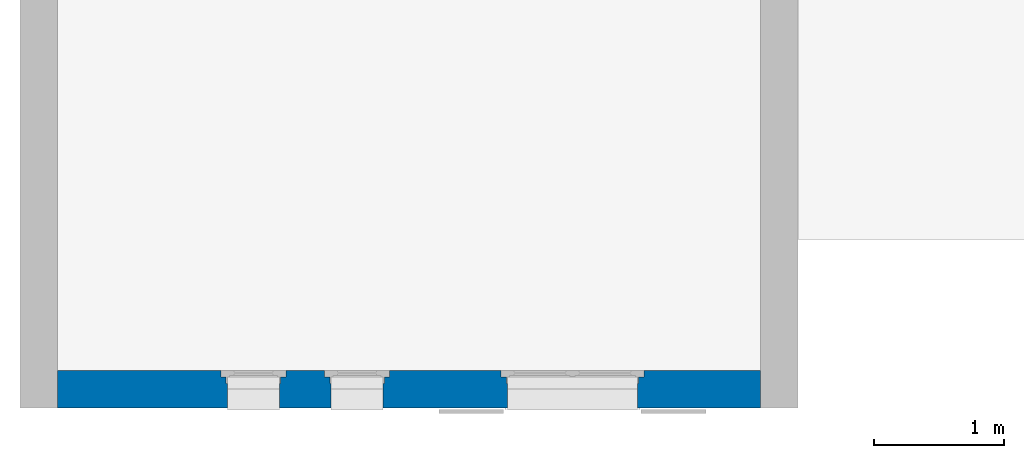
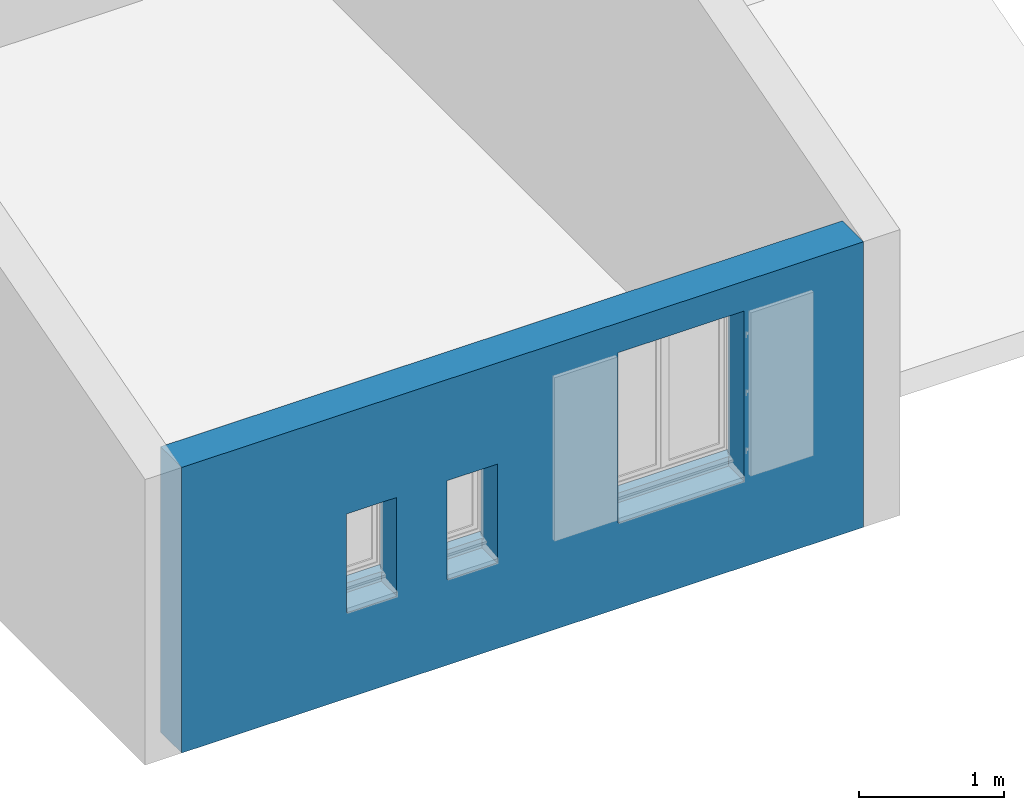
# One storey, part 2 of 6: 1 wall, 3 openings.
"""IFC2X3 building model written with IfcOpenShell, lengths in metres."""

from ifc_helpers import new_model, entity, si_unit, converted_unit, derived_unit, direction, frame, frame_2d, origin, place, context, subcontext, project, spatial, rectangle, extrude, faceted_brep, material, layer, layer_set, layer_usage, type_object, element, save


model = new_model("IFC2X3")

# Units and contexts
model_context = context("Model", 3, precision=1e-05, world=origin(), true_north=direction((6.12303176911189e-17, 1.0)))
context_of_model = context(None, 3, precision=1e-05, world=origin(), true_north=direction((6.12303176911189e-17, 1.0)))
body_context = subcontext(model_context, "Body", "Model", "MODEL_VIEW")
ifc_project = project(units=[si_unit("LENGTHUNIT", "METRE"), si_unit("AREAUNIT", "SQUARE_METRE"), si_unit("VOLUMEUNIT", "CUBIC_METRE"), converted_unit("PLANEANGLEUNIT", "DEGREE", entity("IfcRatioMeasure", 0.0174532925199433), si_unit("PLANEANGLEUNIT", "RADIAN"), dimensions=[0, 0, 0, 0, 0, 0, 0]), si_unit("MASSUNIT", "GRAM", prefix="KILO"), si_unit("TIMEUNIT", "SECOND"), si_unit("FREQUENCYUNIT", "HERTZ"), si_unit("THERMODYNAMICTEMPERATUREUNIT", "DEGREE_CELSIUS"), derived_unit("THERMALTRANSMITTANCEUNIT", [(si_unit("MASSUNIT", "GRAM", prefix="KILO"), 1), (si_unit("THERMODYNAMICTEMPERATUREUNIT", "KELVIN"), -1), (si_unit("TIMEUNIT", "SECOND"), -3)]), derived_unit("VOLUMETRICFLOWRATEUNIT", [(si_unit("LENGTHUNIT", "METRE"), 3), (si_unit("TIMEUNIT", "SECOND"), -1)]), si_unit("ELECTRICCURRENTUNIT", "AMPERE"), si_unit("ELECTRICVOLTAGEUNIT", "VOLT"), si_unit("POWERUNIT", "WATT"), si_unit("FORCEUNIT", "NEWTON", prefix="KILO"), si_unit("ILLUMINANCEUNIT", "LUX"), si_unit("LUMINOUSFLUXUNIT", "LUMEN"), si_unit("LUMINOUSINTENSITYUNIT", "CANDELA"), si_unit("PRESSUREUNIT", "PASCAL")], contexts=[model_context, context_of_model])

# Site, building, storey
site_placement = place(None, origin())
site = spatial("IfcSite", under=ifc_project, at=site_placement, Name="Surface", CompositionType="ELEMENT")
building_placement = place(site_placement, origin())
building = spatial("IfcBuilding", under=site, at=building_placement, CompositionType="ELEMENT")
storey_placement = place(building_placement, frame((0.0, 0.0, 2.64)))
storey = spatial("IfcBuildingStorey", under=building, at=storey_placement, Name="Niveau 1", CompositionType="ELEMENT", Elevation=2.64)

# Wall, openings
ifc_material_1 = material(Name="Maçonnerie - Enduit")
ifc_layer_1 = layer(ifc_material_1, 0.01)
ifc_material_2 = material(Name="Eléments de maçonnerie en béton")
ifc_layer_2 = layer(ifc_material_2, 0.2)
ifc_material_3 = material(Name="Maçonnerie - Isolant")
ifc_layer_3 = layer(ifc_material_3, 0.08)
ifc_layer_set = layer_set([ifc_layer_1, ifc_layer_2, ifc_layer_3], Name="Mur de base:Ext. Parpaing 20 + Isolant 8")
ifc_layer_usage = layer_usage(ifc_layer_set, "AXIS2", "NEGATIVE", 0.145)
wall_type = type_object("IfcWallType", Name="Mur de base:Ext. Parpaing 20 + Isolant 8", PredefinedType="STANDARD", material=ifc_layer_set)
wall_placement = place(storey_placement, frame((-3.08909160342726, -7.21358265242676, 0.0), z_axis=(0.0, 0.0, 1.0), x_axis=(-1.0, 0.0, 0.0)))
wall = element("IfcWallStandardCase", 1, at=wall_placement, inside=storey, type_object=wall_type, material=ifc_layer_usage, Name="Mur de base:Ext. Parpaing 20 + Isolant 8", ObjectType="Mur de base:Ext. Parpaing 20 + Isolant 8", context=body_context, shape_type="SweptSolid", body=[
    extrude(rectangle(XDim=5.42, YDim=0.289999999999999, at=frame_2d((2.71, 0.0), x_axis=(-1.0, 0.0))), origin(), (0.0, 0.0, 1.0), 2.4),
])
opening_1_placement = place(wall_placement, frame((2.0, 0.500000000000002, 0.72), z_axis=(0.0, 0.0, 1.0), x_axis=(-1.0, 0.0, 0.0)))
element("IfcOpeningElement", 2, at=opening_1_placement, cuts=wall, Name="Mur de base:Ext. Parpaing 20 + Isolant 8", ObjectType="Opening", context=body_context, shape_type="Brep", body=[
    faceted_brep([(1.05, 0.565000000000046, 0.0800000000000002), (1.05, 0.544999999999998, 0.0800000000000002), (1.05, 0.544999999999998, 1.43), (1.05, 0.0, 1.43), (1.05, 0.0, 0.0), (1.05, 0.565000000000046, 0.0), (0.0500000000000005, 1.0, 0.0800000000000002), (0.0499999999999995, 0.645000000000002, 0.0800000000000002), (0.0499999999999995, 0.645000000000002, 1.43), (0.0500000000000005, 1.0, 1.43), (1.05, 1.0, 0.0800000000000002), (1.05, 0.645000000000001, 0.0800000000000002), (1.1, 0.645000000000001, 0.0800000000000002), (1.1, 0.595000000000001, 0.0800000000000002), (1.06, 0.595000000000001, 0.0800000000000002), (1.06, 0.544999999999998, 0.0800000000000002), (0.0499999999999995, 0.565000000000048, 0.0800000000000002), (0.0499999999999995, 0.544999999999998, 0.0800000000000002), (0.0399999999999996, 0.544999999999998, 0.0800000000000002), (0.0399999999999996, 0.595000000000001, 0.0800000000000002), (0.0, 0.595000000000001, 0.0800000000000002), (0.0, 0.645000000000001, 0.0800000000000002), (1.05, 1.0, 1.43), (0.0499999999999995, 0.544999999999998, 1.43), (0.0499999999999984, 0.0, 1.43), (0.0499999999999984, 0.0, 0.0), (0.0499999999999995, 0.565000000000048, 0.0), (1.1, 0.645000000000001, 1.48), (1.1, 0.595000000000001, 1.48), (0.0, 0.595000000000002, 1.48), (0.0399999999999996, 0.595000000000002, 1.44), (1.06, 0.595000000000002, 1.44), (1.06, 0.545, 1.44), (0.0399999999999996, 0.544999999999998, 1.44), (1.05, 0.645000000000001, 1.43), (0.0, 0.645000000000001, 1.48)], [[[0, 1, 2, 3, 4, 5]], [[6, 7, 8, 9]], [[10, 11, 12, 13, 14, 15, 1, 0, 16, 17, 18, 19, 20, 21, 7, 6]], [[10, 6, 9, 22]], [[3, 2, 23, 24]], [[3, 24, 25, 4]], [[4, 25, 26, 5]], [[5, 26, 16, 0]], [[12, 27, 28, 13]], [[13, 28, 29, 20, 19, 30, 31, 14]], [[14, 31, 32, 15]], [[15, 32, 33, 18, 17, 23, 2, 1]], [[11, 34, 8, 7, 21, 35, 27, 12]], [[27, 35, 29, 28]], [[30, 33, 32, 31]], [[29, 35, 21, 20]], [[19, 18, 33, 30]], [[9, 8, 34, 22]], [[24, 23, 17, 16, 26, 25]], [[22, 34, 11, 10]]]),
])
opening_2_placement = place(wall_placement, frame((3.36, 0.500000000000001, 0.72), z_axis=(0.0, 0.0, 1.0), x_axis=(-1.0, 0.0, 0.0)))
element("IfcOpeningElement", 3, at=opening_2_placement, cuts=wall, Name="Mur de base:Ext. Parpaing 20 + Isolant 8", ObjectType="Opening", context=body_context, shape_type="Brep", body=[
    faceted_brep([(0.45, 0.565000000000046, 0.0800000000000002), (0.45, 0.544999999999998, 0.0800000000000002), (0.45, 0.544999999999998, 0.83), (0.449999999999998, 0.0, 0.83), (0.449999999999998, 0.0, 0.0), (0.45, 0.565000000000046, 0.0), (0.0500000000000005, 1.0, 0.0800000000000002), (0.0499999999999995, 0.645, 0.0800000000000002), (0.0499999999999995, 0.645, 0.83), (0.0500000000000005, 1.0, 0.83), (0.450000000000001, 1.0, 0.0800000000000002), (0.45, 0.645000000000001, 0.0800000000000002), (0.5, 0.645000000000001, 0.0800000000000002), (0.5, 0.595000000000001, 0.0800000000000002), (0.46, 0.595000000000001, 0.0800000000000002), (0.46, 0.544999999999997, 0.0800000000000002), (0.0500000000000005, 0.565000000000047, 0.0800000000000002), (0.0499999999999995, 0.544999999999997, 0.0799999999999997), (0.0400000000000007, 0.544999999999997, 0.0800000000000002), (0.0400000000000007, 0.595000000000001, 0.0800000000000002), (0.0, 0.595000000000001, 0.0800000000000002), (0.0, 0.645000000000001, 0.0800000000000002), (0.450000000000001, 1.0, 0.83), (0.0499999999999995, 0.544999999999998, 0.83), (0.0499999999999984, 0.0, 0.83), (0.0499999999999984, 0.0, 0.0), (0.0499999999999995, 0.565000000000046, 0.0), (0.499999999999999, 0.645, 0.879999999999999), (0.499999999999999, 0.595, 0.88), (0.0, 0.595000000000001, 0.88), (0.0399999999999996, 0.595000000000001, 0.840000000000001), (0.46, 0.595000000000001, 0.840000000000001), (0.459999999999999, 0.544999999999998, 0.84), (0.0399999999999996, 0.544999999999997, 0.84), (0.45, 0.645000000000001, 0.83), (0.0, 0.645, 0.88)], [[[0, 1, 2, 3, 4, 5]], [[6, 7, 8, 9]], [[10, 11, 12, 13, 14, 15, 1, 0, 16, 17, 18, 19, 20, 21, 7, 6]], [[10, 6, 9, 22]], [[3, 2, 23, 24]], [[3, 24, 25, 4]], [[4, 25, 26, 5]], [[5, 26, 16, 0]], [[12, 27, 28, 13]], [[13, 28, 29, 20, 19, 30, 31, 14]], [[14, 31, 32, 15]], [[15, 32, 33, 18, 17, 23, 2, 1]], [[11, 34, 8, 7, 21, 35, 27, 12]], [[27, 35, 29, 28]], [[30, 33, 32, 31]], [[29, 35, 21, 20]], [[19, 18, 33, 30]], [[9, 8, 34, 22]], [[24, 23, 17, 16, 26, 25]], [[22, 34, 11, 10]]]),
])
opening_3_placement = place(wall_placement, frame((4.16, 0.500000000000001, 0.72), z_axis=(0.0, 0.0, 1.0), x_axis=(-1.0, 0.0, 0.0)))
element("IfcOpeningElement", 4, at=opening_3_placement, cuts=wall, Name="Mur de base:Ext. Parpaing 20 + Isolant 8", ObjectType="Opening", context=body_context, shape_type="Brep", body=[
    faceted_brep([(0.45, 0.565000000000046, 0.0800000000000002), (0.45, 0.544999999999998, 0.0800000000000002), (0.45, 0.544999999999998, 0.83), (0.449999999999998, 0.0, 0.83), (0.449999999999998, 0.0, 0.0), (0.45, 0.565000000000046, 0.0), (0.0500000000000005, 1.0, 0.0800000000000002), (0.0499999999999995, 0.645, 0.0800000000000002), (0.0499999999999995, 0.645, 0.83), (0.0500000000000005, 1.0, 0.83), (0.450000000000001, 1.0, 0.0800000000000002), (0.45, 0.645000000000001, 0.0800000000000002), (0.5, 0.645000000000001, 0.0800000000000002), (0.5, 0.595000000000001, 0.0800000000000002), (0.46, 0.595000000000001, 0.0800000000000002), (0.46, 0.544999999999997, 0.0800000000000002), (0.0500000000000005, 0.565000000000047, 0.0800000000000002), (0.0499999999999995, 0.544999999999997, 0.0799999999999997), (0.0400000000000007, 0.544999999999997, 0.0800000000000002), (0.0400000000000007, 0.595000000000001, 0.0800000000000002), (0.0, 0.595000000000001, 0.0800000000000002), (0.0, 0.645000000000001, 0.0800000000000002), (0.450000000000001, 1.0, 0.83), (0.0499999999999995, 0.544999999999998, 0.83), (0.0499999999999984, 0.0, 0.83), (0.0499999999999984, 0.0, 0.0), (0.0499999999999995, 0.565000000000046, 0.0), (0.499999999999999, 0.645, 0.879999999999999), (0.499999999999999, 0.595, 0.88), (0.0, 0.595000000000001, 0.88), (0.0399999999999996, 0.595000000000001, 0.840000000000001), (0.46, 0.595000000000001, 0.840000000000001), (0.459999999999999, 0.544999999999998, 0.84), (0.0399999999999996, 0.544999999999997, 0.84), (0.45, 0.645000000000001, 0.83), (0.0, 0.645, 0.88)], [[[0, 1, 2, 3, 4, 5]], [[6, 7, 8, 9]], [[10, 11, 12, 13, 14, 15, 1, 0, 16, 17, 18, 19, 20, 21, 7, 6]], [[10, 6, 9, 22]], [[3, 2, 23, 24]], [[3, 24, 25, 4]], [[4, 25, 26, 5]], [[5, 26, 16, 0]], [[12, 27, 28, 13]], [[13, 28, 29, 20, 19, 30, 31, 14]], [[14, 31, 32, 15]], [[15, 32, 33, 18, 17, 23, 2, 1]], [[11, 34, 8, 7, 21, 35, 27, 12]], [[27, 35, 29, 28]], [[30, 33, 32, 31]], [[29, 35, 21, 20]], [[19, 18, 33, 30]], [[9, 8, 34, 22]], [[24, 23, 17, 16, 26, 25]], [[22, 34, 11, 10]]]),
])

save(model, "model.ifc")
